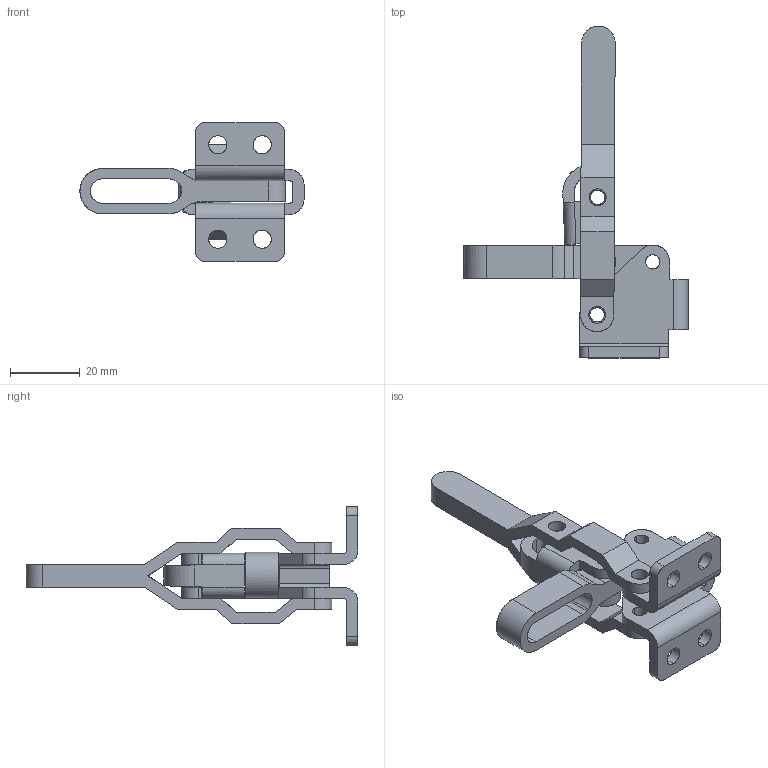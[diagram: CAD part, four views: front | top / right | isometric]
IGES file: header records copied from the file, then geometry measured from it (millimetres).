
Start section: Comment
Global section: file name: 12050u.igs; native system:  By Spatial Corp.; preprocessor: XPlus PS/IGES 3.0; author: Author; organization: Title; date: 20050216.170515; units: inch
Bounding box: 64.07 x 94.89 x 39.7 mm (x, y, z)
Surface area: 13951.2 mm2 (no closed solid volume)
Topology: 0 solids, 0 shells, 162 faces, 916 edges, 916 vertices
Faces by surface type: revolution 82, extrusion 80
